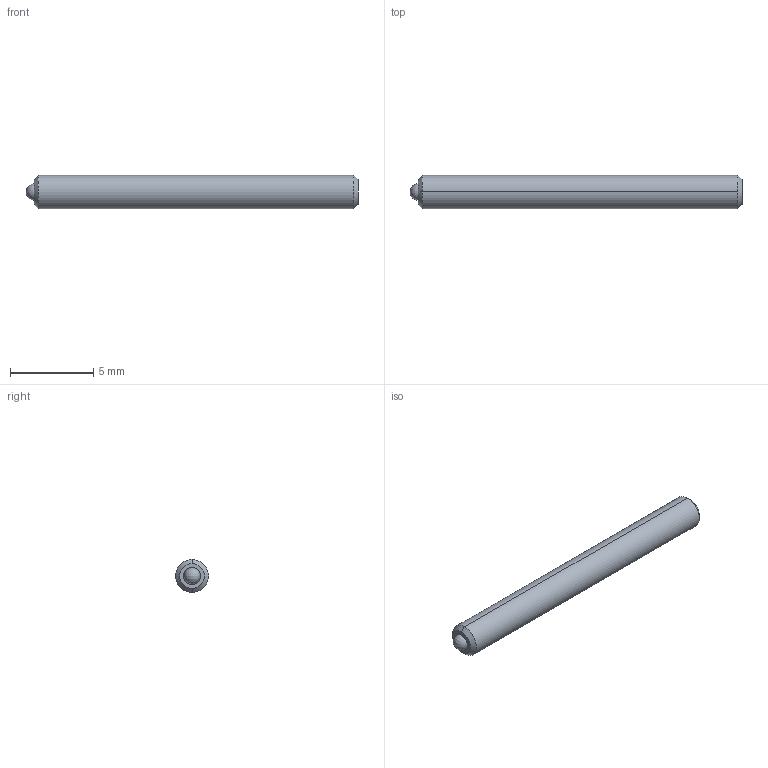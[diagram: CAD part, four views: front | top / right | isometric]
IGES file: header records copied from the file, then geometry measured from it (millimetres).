
Start section: SolidWorks IGES file using analytic representation for surfaces
Global section: file name: C:\Users\workpc\Desktop\KMA Solidworks\TS2-25-20.IGS; native system: SolidWorks 2013; preprocessor: SolidWorks 2013; author: workpc; date: 130217.114916; units: millimetre
Bounding box: 20 x 2 x 2 mm (x, y, z)
Surface area: 137.7 mm2 (no closed solid volume)
Topology: 0 solids, 0 shells, 20 faces, 140 edges, 136 vertices
Faces by surface type: revolution 10, bspline 10
